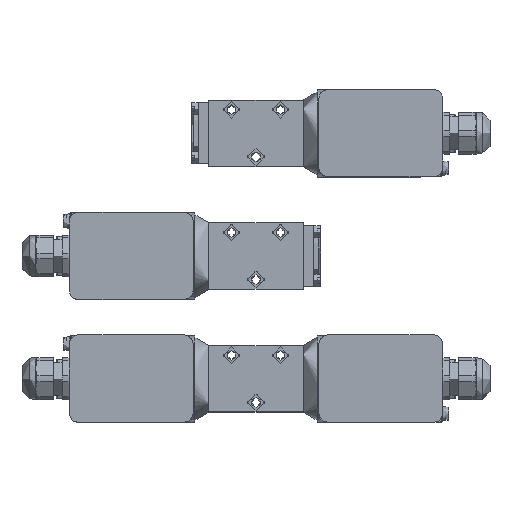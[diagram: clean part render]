
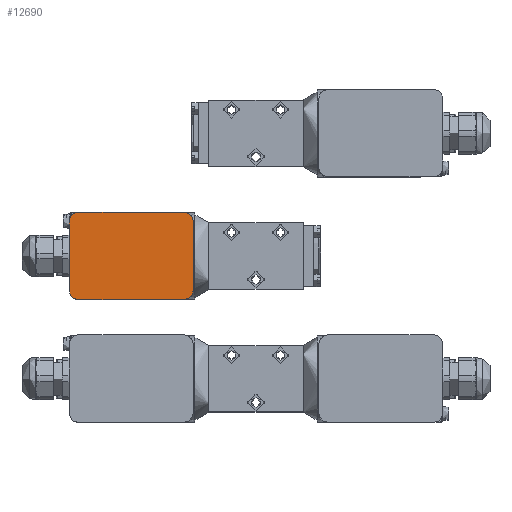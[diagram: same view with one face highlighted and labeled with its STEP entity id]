
A CAD part, top view. The second image highlights one B-rep face of the part: STEP entity #12690.
In plain terms, the highlighted planar face has unit normal (0, 0, 1).
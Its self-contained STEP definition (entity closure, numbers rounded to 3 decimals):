
#12690=ADVANCED_FACE('', (#12700), #12710, .T.);
#51660=AXIS2_PLACEMENT_3D('Ax2Pl3d', #51670, #51680, #51690);
#51940=AXIS2_PLACEMENT_3D('Ax2Pl3d', #51950, #51960, #51970);
#53460=AXIS2_PLACEMENT_3D('Ax2Pl3d', #53470, #53480, #53490);
#53500=AXIS2_PLACEMENT_3D('Ax2Pl3d', #53510, #53520, #53530);
#53540=AXIS2_PLACEMENT_3D('Ax2Pl3d', #53550, #53560, #53570);
#143780=CARTESIAN_POINT('', (-14.,114.,247.));
#51670=CARTESIAN_POINT('HicPkt', (-14.,109.,247.));
#143790=CARTESIAN_POINT('', (-9.,109.,247.));
#143810=CARTESIAN_POINT('', (-9.,69.,247.));
#143820=CARTESIAN_POINT('', (-9.,69.,247.));
#51950=CARTESIAN_POINT('HicPkt', (-14.,69.,247.));
#143880=CARTESIAN_POINT('', (-14.,64.,247.));
#144350=CARTESIAN_POINT('', (-75.,114.,247.));
#144360=CARTESIAN_POINT('', (-14.,114.,247.));
#53470=CARTESIAN_POINT('HicPkt', (-14.,64.,247.));
#53510=CARTESIAN_POINT('HicPkt', (-75.,109.,247.));
#144820=CARTESIAN_POINT('', (-80.,109.,247.));
#144830=CARTESIAN_POINT('', (-80.,109.,247.));
#144840=CARTESIAN_POINT('', (-80.,69.,247.));
#53550=CARTESIAN_POINT('HicPkt', (-75.,69.,247.));
#144850=CARTESIAN_POINT('', (-75.,64.,247.));
#144860=CARTESIAN_POINT('', (-75.,64.,247.));
#157070=CIRCLE('Circle', #51660, 5.);
#157090=CIRCLE('Circle', #51940, 5.);
#157280=CIRCLE('Circle', #53500, 5.);
#157290=CIRCLE('Circle', #53540, 5.);
#51680=DIRECTION('Axis', (0.,0.,-1.));
#51690=DIRECTION('RefDirection', (-1.,0.,0.));
#217880=DIRECTION('', (0.,-1.,0.));
#51960=DIRECTION('Axis', (0.,0.,-1.));
#51970=DIRECTION('RefDirection', (-1.,0.,0.));
#218170=DIRECTION('', (1.,0.,0.));
#53480=DIRECTION('Axis', (0.,0.,1.));
#53490=DIRECTION('RefDirection', (1.,0.,0.));
#53520=DIRECTION('Axis', (0.,0.,-1.));
#53530=DIRECTION('RefDirection', (-1.,0.,0.));
#218390=DIRECTION('', (0.,1.,0.));
#53560=DIRECTION('Axis', (0.,0.,-1.));
#53570=DIRECTION('RefDirection', (-1.,0.,0.));
#218400=DIRECTION('', (-1.,0.,0.));
#238130=EDGE_CURVE('', #238110, #238140, #157070, .T.);
#238170=EDGE_CURVE('', #238140, #238180, #238190, .T.);
#238310=EDGE_CURVE('', #238180, #238320, #157090, .T.);
#239110=EDGE_CURVE('', #239090, #238110, #239120, .T.);
#239940=EDGE_CURVE('', #239950, #239090, #157280, .T.);
#239960=EDGE_CURVE('', #239970, #239950, #239980, .T.);
#239990=EDGE_CURVE('', #240000, #239970, #157290, .T.);
#240010=EDGE_CURVE('', #238320, #240000, #240020, .T.);
#277290=EDGE_LOOP('Edge_loop', (#277300,#277310,#277320,#277330,#277340,
#277350,#277360,#277370));
#12700=FACE_OUTER_BOUND('Face_outer_bound', #277290, .T.);
#238190=LINE('Line', #143810, #317300);
#239120=LINE('Line', #144360, #317590);
#239980=LINE('Line', #144830, #317810);
#240020=LINE('Line', #144860, #317820);
#277300=ORIENTED_EDGE('', *, *, #238130, .F.);
#277310=ORIENTED_EDGE('', *, *, #239110, .F.);
#277320=ORIENTED_EDGE('', *, *, #239940, .F.);
#277330=ORIENTED_EDGE('', *, *, #239960, .F.);
#277340=ORIENTED_EDGE('', *, *, #239990, .F.);
#277350=ORIENTED_EDGE('', *, *, #240010, .F.);
#277360=ORIENTED_EDGE('', *, *, #238310, .F.);
#277370=ORIENTED_EDGE('', *, *, #238170, .F.);
#12710=PLANE('Plane', #53460);
#317300=VECTOR('', #217880, 40.);
#317590=VECTOR('', #218170, 61.);
#317810=VECTOR('', #218390, 40.);
#317820=VECTOR('', #218400, 61.);
#238110=VERTEX_POINT('', #143780);
#238140=VERTEX_POINT('', #143790);
#238180=VERTEX_POINT('', #143820);
#238320=VERTEX_POINT('', #143880);
#239090=VERTEX_POINT('', #144350);
#239950=VERTEX_POINT('', #144820);
#239970=VERTEX_POINT('', #144840);
#240000=VERTEX_POINT('', #144850);
